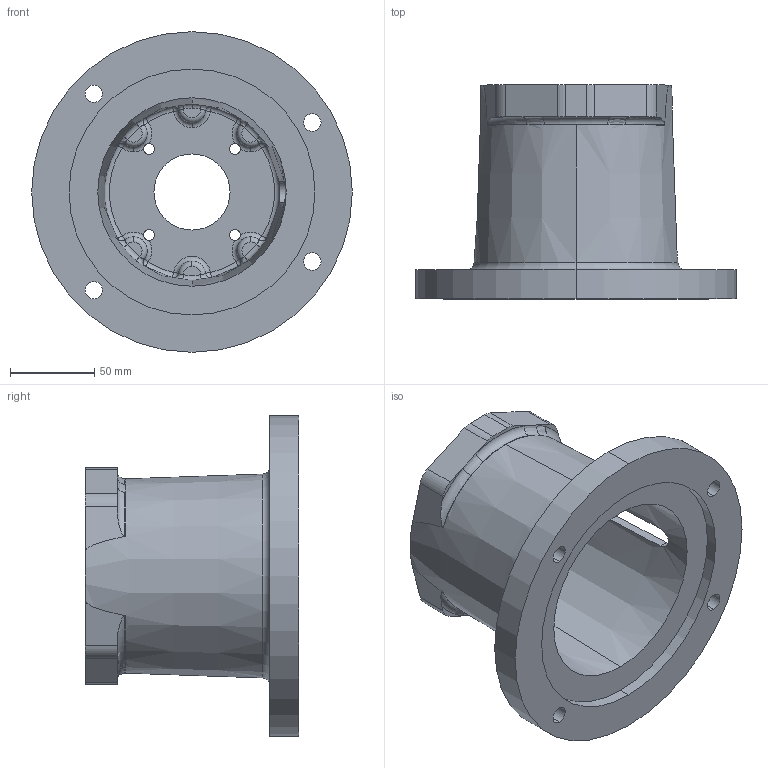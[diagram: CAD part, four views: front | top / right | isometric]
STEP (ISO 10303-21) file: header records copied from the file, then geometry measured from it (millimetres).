
FILE_DESCRIPTION (( 'STEP AP214' ), '1' );
FILE_NAME ('E575504F.STEP', '2024-10-01T19:17:17', ( '' ), ( '' ), 'SwSTEP 2.0', 'SolidWorks 2022', '' );
FILE_SCHEMA (( 'AUTOMOTIVE_DESIGN' ));
Length unit declared in the file: inch
Products named in the file (1): E575504F
Bounding box: 190.5 x 127 x 190.5 mm (x, y, z)
Volume: 546367.5 mm3; surface area: 147531.9 mm2
Topology: 1 solids, 1 shells, 179 faces, 462 edges, 272 vertices
Faces by surface type: torus 56, cylinder 32, plane 29, bspline 28, sphere 24, cone 10
Entity records: 7344 total; most frequent: CARTESIAN_POINT 2894, DIRECTION 978, ORIENTED_EDGE 900, AXIS2_PLACEMENT_3D 452, EDGE_CURVE 450, CIRCLE 300, VERTEX_POINT 272, EDGE_LOOP 198
